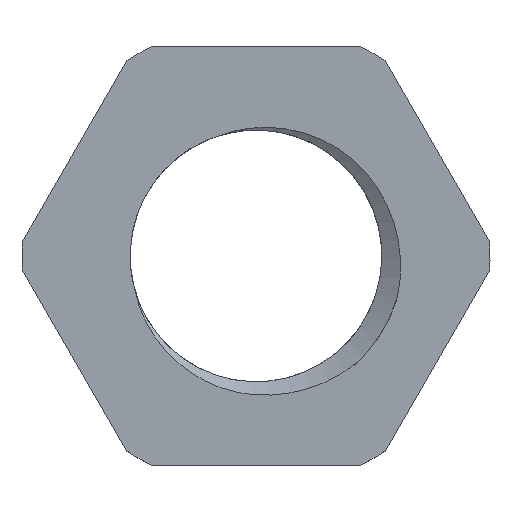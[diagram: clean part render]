
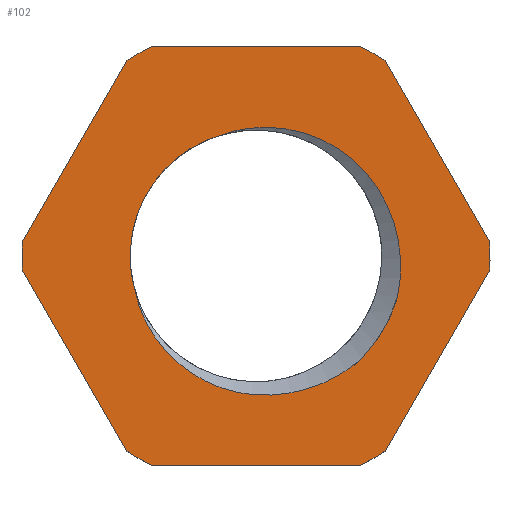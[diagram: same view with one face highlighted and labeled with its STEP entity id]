
A CAD part, top view. The second image highlights one B-rep face of the part: STEP entity #102.
In plain terms, the highlighted planar face has unit normal (0, 0, 1).
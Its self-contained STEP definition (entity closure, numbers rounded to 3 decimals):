
#48=B_SPLINE_CURVE_WITH_KNOTS('',3,(#590,#591,#592,#593,#594,#595),
 .UNSPECIFIED.,.F.,.F.,(4,2,4),(0.,0.5,1.),.UNSPECIFIED.);
#49=B_SPLINE_CURVE_WITH_KNOTS('',3,(#598,#599,#600,#601,#602,#603),
 .UNSPECIFIED.,.F.,.F.,(4,2,4),(0.,0.5,1.),.UNSPECIFIED.);
#50=B_SPLINE_CURVE_WITH_KNOTS('',3,(#605,#606,#607,#608,#609,#610),
 .UNSPECIFIED.,.F.,.F.,(4,2,4),(0.,0.5,1.),.UNSPECIFIED.);
#63=FACE_BOUND('',#149,.T.);
#64=FACE_BOUND('',#150,.T.);
#77=CIRCLE('',#406,9.5);
#79=CIRCLE('',#410,9.5);
#81=CIRCLE('',#414,9.5);
#83=CIRCLE('',#418,9.5);
#85=CIRCLE('',#422,9.5);
#87=CIRCLE('',#426,9.5);
#88=CIRCLE('',#428,5.981);
#102=ADVANCED_FACE('',(#63,#64),#117,.F.);
#117=PLANE('',#429);
#149=EDGE_LOOP('',(#209,#210,#211,#212,#213,#214,#215,#216,#217,#218,#219,
#220));
#150=EDGE_LOOP('',(#221,#222,#223,#224));
#209=ORIENTED_EDGE('',*,*,#304,.F.);
#210=ORIENTED_EDGE('',*,*,#337,.F.);
#211=ORIENTED_EDGE('',*,*,#334,.F.);
#212=ORIENTED_EDGE('',*,*,#331,.F.);
#213=ORIENTED_EDGE('',*,*,#328,.F.);
#214=ORIENTED_EDGE('',*,*,#325,.F.);
#215=ORIENTED_EDGE('',*,*,#322,.F.);
#216=ORIENTED_EDGE('',*,*,#319,.F.);
#217=ORIENTED_EDGE('',*,*,#316,.F.);
#218=ORIENTED_EDGE('',*,*,#313,.F.);
#219=ORIENTED_EDGE('',*,*,#310,.F.);
#220=ORIENTED_EDGE('',*,*,#307,.F.);
#221=ORIENTED_EDGE('',*,*,#338,.F.);
#222=ORIENTED_EDGE('',*,*,#339,.F.);
#223=ORIENTED_EDGE('',*,*,#340,.F.);
#224=ORIENTED_EDGE('',*,*,#341,.F.);
#269=VERTEX_POINT('',#522);
#270=VERTEX_POINT('',#524);
#272=VERTEX_POINT('',#530);
#274=VERTEX_POINT('',#536);
#276=VERTEX_POINT('',#542);
#278=VERTEX_POINT('',#548);
#280=VERTEX_POINT('',#554);
#282=VERTEX_POINT('',#560);
#284=VERTEX_POINT('',#566);
#286=VERTEX_POINT('',#572);
#288=VERTEX_POINT('',#578);
#290=VERTEX_POINT('',#584);
#291=VERTEX_POINT('',#596);
#292=VERTEX_POINT('',#597);
#293=VERTEX_POINT('',#604);
#294=VERTEX_POINT('',#611);
#304=EDGE_CURVE('',#269,#270,#357,.T.);
#307=EDGE_CURVE('',#270,#272,#77,.T.);
#310=EDGE_CURVE('',#272,#274,#361,.T.);
#313=EDGE_CURVE('',#274,#276,#79,.T.);
#316=EDGE_CURVE('',#276,#278,#365,.T.);
#319=EDGE_CURVE('',#278,#280,#81,.T.);
#322=EDGE_CURVE('',#280,#282,#369,.T.);
#325=EDGE_CURVE('',#282,#284,#83,.T.);
#328=EDGE_CURVE('',#284,#286,#373,.T.);
#331=EDGE_CURVE('',#286,#288,#85,.T.);
#334=EDGE_CURVE('',#288,#290,#377,.T.);
#337=EDGE_CURVE('',#290,#269,#87,.T.);
#338=EDGE_CURVE('',#291,#292,#48,.T.);
#339=EDGE_CURVE('',#293,#291,#49,.T.);
#340=EDGE_CURVE('',#294,#293,#50,.T.);
#341=EDGE_CURVE('',#292,#294,#88,.T.);
#357=LINE('',#523,#381);
#361=LINE('',#535,#385);
#365=LINE('',#547,#389);
#369=LINE('',#559,#393);
#373=LINE('',#571,#397);
#377=LINE('',#583,#401);
#381=VECTOR('',#437,1.);
#385=VECTOR('',#449,1.);
#389=VECTOR('',#461,1.);
#393=VECTOR('',#473,1.);
#397=VECTOR('',#485,1.);
#401=VECTOR('',#497,1.);
#406=AXIS2_PLACEMENT_3D('',#529,#443,#444);
#410=AXIS2_PLACEMENT_3D('',#541,#455,#456);
#414=AXIS2_PLACEMENT_3D('',#553,#467,#468);
#418=AXIS2_PLACEMENT_3D('',#565,#479,#480);
#422=AXIS2_PLACEMENT_3D('',#577,#491,#492);
#426=AXIS2_PLACEMENT_3D('',#588,#503,#504);
#428=AXIS2_PLACEMENT_3D('',#612,#507,#508);
#429=AXIS2_PLACEMENT_3D('',#613,#509,#510);
#437=DIRECTION('',(0.5,0.866,0.));
#443=DIRECTION('',(0.,0.,-1.));
#444=DIRECTION('',(1.,0.,0.));
#449=DIRECTION('',(1.,0.,0.));
#455=DIRECTION('',(0.,0.,-1.));
#456=DIRECTION('',(1.,0.,0.));
#461=DIRECTION('',(0.5,-0.866,0.));
#467=DIRECTION('',(0.,0.,-1.));
#468=DIRECTION('',(1.,0.,0.));
#473=DIRECTION('',(-0.5,-0.866,0.));
#479=DIRECTION('',(0.,0.,-1.));
#480=DIRECTION('',(1.,0.,0.));
#485=DIRECTION('',(-1.,0.,0.));
#491=DIRECTION('',(0.,0.,-1.));
#492=DIRECTION('',(1.,0.,0.));
#497=DIRECTION('',(-0.5,0.866,0.));
#503=DIRECTION('',(0.,0.,-1.));
#504=DIRECTION('',(1.,0.,0.));
#507=DIRECTION('',(0.,0.,1.));
#508=DIRECTION('',(1.,0.,0.));
#509=DIRECTION('',(0.,0.,-1.));
#510=DIRECTION('',(-1.,0.,0.));
#522=CARTESIAN_POINT('',(-9.483,0.576,5.));
#523=CARTESIAN_POINT('',(-9.483,0.576,5.));
#524=CARTESIAN_POINT('',(-5.24,7.924,5.));
#529=CARTESIAN_POINT('',(0.,0.,5.));
#530=CARTESIAN_POINT('',(-4.243,8.5,5.));
#535=CARTESIAN_POINT('',(-4.243,8.5,5.));
#536=CARTESIAN_POINT('',(4.243,8.5,5.));
#541=CARTESIAN_POINT('',(0.,0.,5.));
#542=CARTESIAN_POINT('',(5.24,7.924,5.));
#547=CARTESIAN_POINT('',(5.24,7.924,5.));
#548=CARTESIAN_POINT('',(9.483,0.576,5.));
#553=CARTESIAN_POINT('',(0.,0.,5.));
#554=CARTESIAN_POINT('',(9.483,-0.576,5.));
#559=CARTESIAN_POINT('',(9.483,-0.576,5.));
#560=CARTESIAN_POINT('',(5.24,-7.924,5.));
#565=CARTESIAN_POINT('',(0.,0.,5.));
#566=CARTESIAN_POINT('',(4.243,-8.5,5.));
#571=CARTESIAN_POINT('',(4.243,-8.5,5.));
#572=CARTESIAN_POINT('',(-4.243,-8.5,5.));
#577=CARTESIAN_POINT('',(0.,0.,5.));
#578=CARTESIAN_POINT('',(-5.24,-7.924,5.));
#583=CARTESIAN_POINT('',(-5.24,-7.924,5.));
#584=CARTESIAN_POINT('',(-9.483,-0.576,5.));
#588=CARTESIAN_POINT('',(0.,0.,5.));
#590=CARTESIAN_POINT('',(-4.932,-1.322,5.));
#591=CARTESIAN_POINT('',(-4.576,-3.268,5.));
#592=CARTESIAN_POINT('',(-3.033,-4.891,5.));
#593=CARTESIAN_POINT('',(0.716,-5.986,5.));
#594=CARTESIAN_POINT('',(2.856,-5.466,5.));
#595=CARTESIAN_POINT('',(4.317,-4.139,5.));
#596=CARTESIAN_POINT('',(-4.932,-1.322,5.));
#597=CARTESIAN_POINT('',(4.317,-4.139,5.));
#598=CARTESIAN_POINT('',(-1.321,4.933,5.));
#599=CARTESIAN_POINT('',(-2.623,4.584,5.));
#600=CARTESIAN_POINT('',(-3.75,3.718,5.));
#601=CARTESIAN_POINT('',(-5.097,1.385,5.));
#602=CARTESIAN_POINT('',(-5.281,-0.02,5.));
#603=CARTESIAN_POINT('',(-4.932,-1.322,5.));
#604=CARTESIAN_POINT('',(-1.321,4.933,5.));
#605=CARTESIAN_POINT('',(5.744,-1.666,5.));
#606=CARTESIAN_POINT('',(6.162,0.262,5.));
#607=CARTESIAN_POINT('',(5.561,2.353,5.));
#608=CARTESIAN_POINT('',(2.704,5.09,5.));
#609=CARTESIAN_POINT('',(0.544,5.598,5.));
#610=CARTESIAN_POINT('',(-1.321,4.933,5.));
#611=CARTESIAN_POINT('',(5.744,-1.666,5.));
#612=CARTESIAN_POINT('',(0.,0.,5.));
#613=CARTESIAN_POINT('',(0.,0.,5.));
